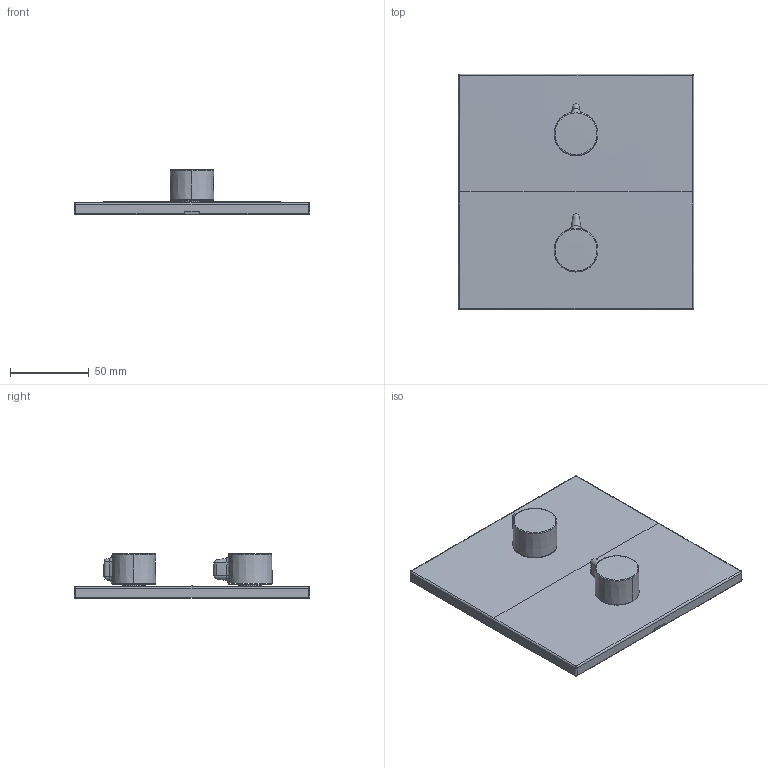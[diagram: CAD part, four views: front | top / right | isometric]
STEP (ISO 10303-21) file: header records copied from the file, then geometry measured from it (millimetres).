
FILE_DESCRIPTION (( 'STEP AP203' ), '1' );
FILE_NAME ('88719062(2025)+2097NX(2025).STEP', '2025-06-25T07:15:59', ( '' ), ( '' ), 'SwSTEP 2.0', 'SolidWorks 2024', '' );
FILE_SCHEMA (( 'CONFIG_CONTROL_DESIGN' ));
Length unit declared in the file: millimetre
Products named in the file (1): 88719062(2025)+2097NX(2025)
Bounding box: 149.99 x 149.99 x 28.43 mm (x, y, z)
Volume: 200781 mm3; surface area: 54650.1 mm2
Topology: 1 solids, 1 shells, 76 faces, 188 edges, 106 vertices
Faces by surface type: bspline 43, cylinder 16, plane 9, cone 6, torus 2
Entity records: 4864 total; most frequent: CARTESIAN_POINT 3384, ORIENTED_EDGE 352, DIRECTION 204, EDGE_CURVE 176, VERTEX_POINT 106, AXIS2_PLACEMENT_3D 83, EDGE_LOOP 80, B_SPLINE_CURVE_WITH_KNOTS 80
